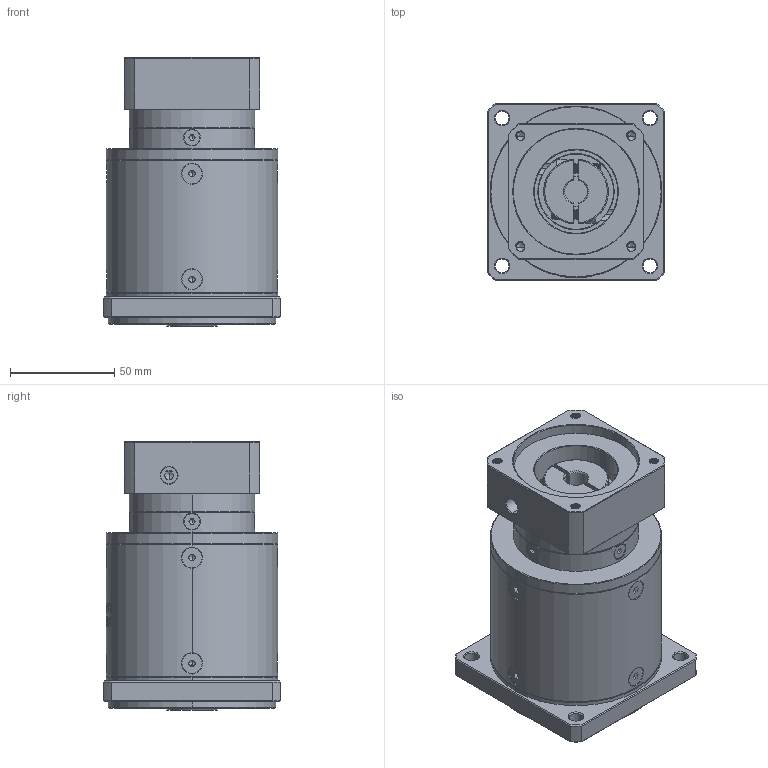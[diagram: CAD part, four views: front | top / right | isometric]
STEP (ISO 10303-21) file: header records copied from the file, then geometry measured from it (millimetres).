
FILE_DESCRIPTION (( 'STEP AP214' ), '1' );
FILE_NAME ('ZF080-K15-L3-P2-11-60-75-M5.step', '2023-08-19T07:00:20', ( '' ), ( '' ), 'SwSTEP 2.0', 'SolidWorks 2016', '' );
FILE_SCHEMA (( 'AUTOMOTIVE_DESIGN' ));
Length unit declared in the file: millimetre
Products named in the file (1): ZF080-K15-L3-P2-11-60-75-M5
Bounding box: 85 x 85 x 128.5 mm (x, y, z)
Volume: 568063.6 mm3; surface area: 74286.8 mm2
Topology: 18 solids, 18 shells, 2275 faces, 6005 edges, 3831 vertices
Faces by surface type: plane 1123, cylinder 401, bspline 390, cone 321, torus 40
Entity records: 120338 total; most frequent: CARTESIAN_POINT 43921, ORIENTED_EDGE 11938, DIRECTION 8961, EDGE_CURVE 5969, VERTEX_POINT 3831, VECTOR 3181, LINE 3181, AXIS2_PLACEMENT_3D 2890
